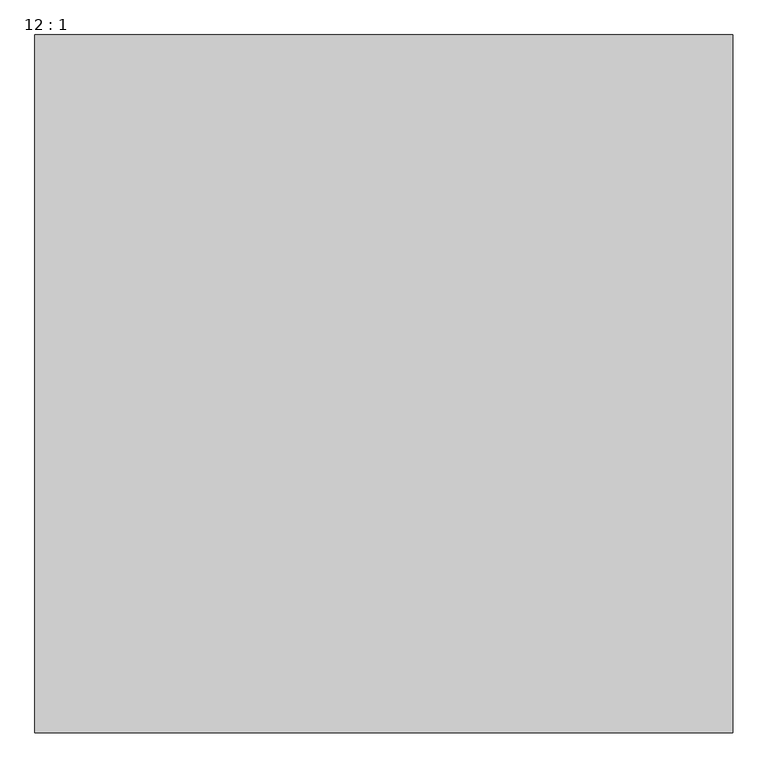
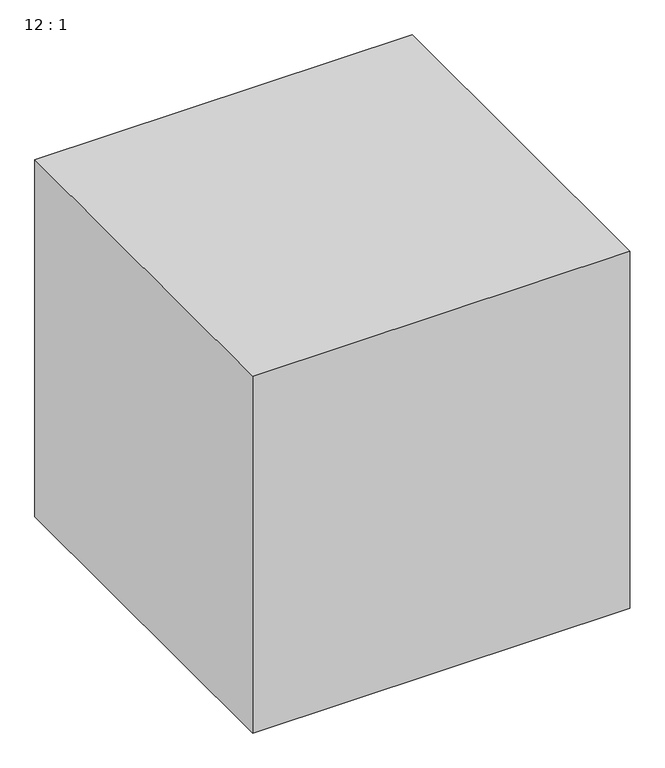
"""IFC4 building model written with IfcOpenShell, lengths in millimetres: proxy geometry, 12 : 1."""

from ifc_helpers import new_model, si_unit, origin, origin_with_axes, place, context, project, spatial, polyline, outline, extrude, source, transform, mapped, element, save


def proxy_12_1_cf9d7331(model_context):
    return source(origin(), model_context, "Body", "SweptSolid", [
        extrude(outline(polyline([(-26307.9756708, 11335.2294472), (-26307.9756708, 10335.2294472), (-27307.9756708, 10335.2294472), (-27307.9756708, 11335.2294472), (-26307.9756708, 11335.2294472)])), origin_with_axes(), (0.0, 0.0, 1.0), 1000.0),
    ])


if __name__ == "__main__":
    model = new_model("IFC4")
    model_context = context("Model", 3, world=origin())
    ifc_project = project(units=[si_unit("LENGTHUNIT", "METRE", prefix="MILLI")], contexts=[model_context])
    site = spatial("IfcSite", under=ifc_project)
    building = spatial("IfcBuilding", under=site)
    placement = place(None, origin())
    proxy_12_1_shape = proxy_12_1_cf9d7331(model_context)
    element("IfcBuildingElementProxy", 1, Name="12 : 1", ObjectType="12 : 1", at=placement, inside=building, context=model_context, shape_type="MappedRepresentation", body=[
        mapped(proxy_12_1_shape, transform((0.0, 0.0, 0.0), x_axis=(1.0, 0.0, 0.0), y_axis=(0.0, 1.0, 0.0), z_axis=(0.0, 0.0, 1.0))),
    ])
    save(model, "model.ifc")
